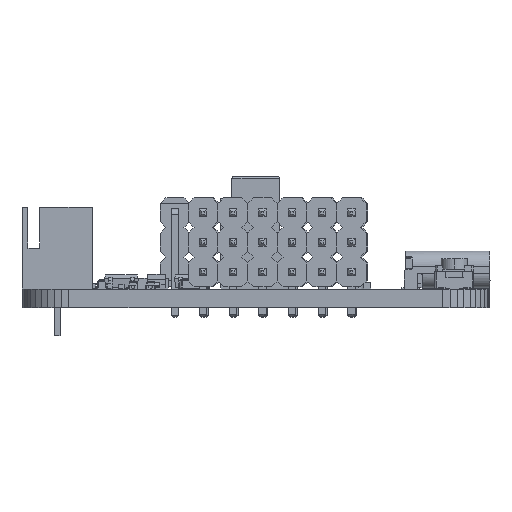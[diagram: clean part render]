
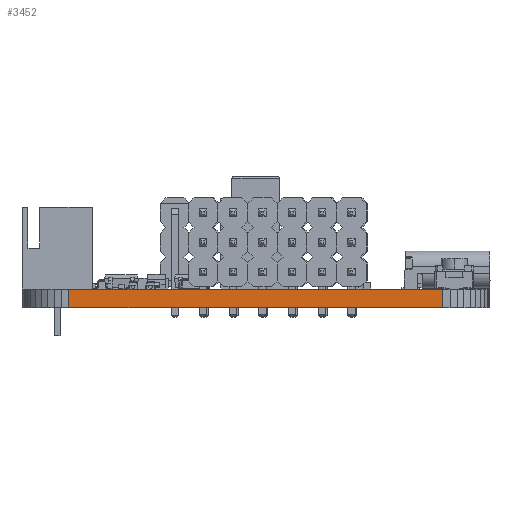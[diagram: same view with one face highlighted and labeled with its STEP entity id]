
A CAD part, left-side view. The second image highlights one B-rep face of the part: STEP entity #3452.
In plain terms, the highlighted planar face has unit normal (-1, 0, 0).
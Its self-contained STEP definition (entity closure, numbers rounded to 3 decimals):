
#243 = PLANE('',#244);
#244 = AXIS2_PLACEMENT_3D('',#245,#246,#247);
#245 = CARTESIAN_POINT('',(-20.,-16.,0.));
#246 = DIRECTION('',(0.998,0.059,0.));
#247 = DIRECTION('',(0.059,-0.998,0.));
#271 = PLANE('',#272);
#272 = AXIS2_PLACEMENT_3D('',#273,#274,#275);
#273 = CARTESIAN_POINT('',(-19.963,-16.628,1.615));
#274 = DIRECTION('',(0.,0.,-1.));
#275 = DIRECTION('',(-1.,0.,0.));
#325 = PLANE('',#326);
#326 = AXIS2_PLACEMENT_3D('',#327,#328,#329);
#327 = CARTESIAN_POINT('',(-19.963,-16.628,0.));
#328 = DIRECTION('',(0.,0.,-1.));
#329 = DIRECTION('',(-1.,0.,0.));
#3344 = PLANE('',#3345);
#3345 = AXIS2_PLACEMENT_3D('',#3346,#3347,#3348);
#3346 = CARTESIAN_POINT('',(-19.963,16.628,0.));
#3347 = DIRECTION('',(0.997,-0.078,0.));
#3348 = DIRECTION('',(-0.078,-0.997,0.));
#3382 = VERTEX_POINT('',#3383);
#3383 = CARTESIAN_POINT('',(-20.012,16.,1.615));
#3404 = EDGE_CURVE('',#3405,#3382,#3407,.T.);
#3405 = VERTEX_POINT('',#3406);
#3406 = CARTESIAN_POINT('',(-20.012,16.,0.));
#3407 = SURFACE_CURVE('',#3408,(#3412,#3419),.PCURVE_S1.);
#3408 = LINE('',#3409,#3410);
#3409 = CARTESIAN_POINT('',(-20.012,16.,0.));
#3410 = VECTOR('',#3411,1.);
#3411 = DIRECTION('',(0.,0.,1.));
#3412 = PCURVE('',#3344,#3413);
#3413 = DEFINITIONAL_REPRESENTATION('',(#3414),#3418);
#3414 = LINE('',#3415,#3416);
#3415 = CARTESIAN_POINT('',(0.63,0.));
#3416 = VECTOR('',#3417,1.);
#3417 = DIRECTION('',(0.,-1.));
#3418 = ( GEOMETRIC_REPRESENTATION_CONTEXT(2) 
PARAMETRIC_REPRESENTATION_CONTEXT() REPRESENTATION_CONTEXT('2D SPACE',''
  ) );
#3419 = PCURVE('',#3420,#3425);
#3420 = PLANE('',#3421);
#3421 = AXIS2_PLACEMENT_3D('',#3422,#3423,#3424);
#3422 = CARTESIAN_POINT('',(-20.012,16.,0.));
#3423 = DIRECTION('',(1.,0.,0.));
#3424 = DIRECTION('',(0.,-1.,0.));
#3425 = DEFINITIONAL_REPRESENTATION('',(#3426),#3430);
#3426 = LINE('',#3427,#3428);
#3427 = CARTESIAN_POINT('',(0.,0.));
#3428 = VECTOR('',#3429,1.);
#3429 = DIRECTION('',(0.,-1.));
#3430 = ( GEOMETRIC_REPRESENTATION_CONTEXT(2) 
PARAMETRIC_REPRESENTATION_CONTEXT() REPRESENTATION_CONTEXT('2D SPACE',''
  ) );
#3452 = ADVANCED_FACE('',(#3453),#3420,.F.);
#3453 = FACE_BOUND('',#3454,.F.);
#3454 = EDGE_LOOP('',(#3455,#3456,#3479,#3502));
#3455 = ORIENTED_EDGE('',*,*,#3404,.T.);
#3456 = ORIENTED_EDGE('',*,*,#3457,.T.);
#3457 = EDGE_CURVE('',#3382,#3458,#3460,.T.);
#3458 = VERTEX_POINT('',#3459);
#3459 = CARTESIAN_POINT('',(-20.,-16.,1.615));
#3460 = SURFACE_CURVE('',#3461,(#3465,#3472),.PCURVE_S1.);
#3461 = LINE('',#3462,#3463);
#3462 = CARTESIAN_POINT('',(-20.012,16.,1.615));
#3463 = VECTOR('',#3464,1.);
#3464 = DIRECTION('',(0.,-1.,0.));
#3465 = PCURVE('',#3420,#3466);
#3466 = DEFINITIONAL_REPRESENTATION('',(#3467),#3471);
#3467 = LINE('',#3468,#3469);
#3468 = CARTESIAN_POINT('',(0.,-1.615));
#3469 = VECTOR('',#3470,1.);
#3470 = DIRECTION('',(1.,0.));
#3471 = ( GEOMETRIC_REPRESENTATION_CONTEXT(2) 
PARAMETRIC_REPRESENTATION_CONTEXT() REPRESENTATION_CONTEXT('2D SPACE',''
  ) );
#3472 = PCURVE('',#271,#3473);
#3473 = DEFINITIONAL_REPRESENTATION('',(#3474),#3478);
#3474 = LINE('',#3475,#3476);
#3475 = CARTESIAN_POINT('',(0.049,32.628));
#3476 = VECTOR('',#3477,1.);
#3477 = DIRECTION('',(0.,-1.));
#3478 = ( GEOMETRIC_REPRESENTATION_CONTEXT(2) 
PARAMETRIC_REPRESENTATION_CONTEXT() REPRESENTATION_CONTEXT('2D SPACE',''
  ) );
#3479 = ORIENTED_EDGE('',*,*,#3480,.F.);
#3480 = EDGE_CURVE('',#3481,#3458,#3483,.T.);
#3481 = VERTEX_POINT('',#3482);
#3482 = CARTESIAN_POINT('',(-20.,-16.,0.));
#3483 = SURFACE_CURVE('',#3484,(#3488,#3495),.PCURVE_S1.);
#3484 = LINE('',#3485,#3486);
#3485 = CARTESIAN_POINT('',(-20.,-16.,0.));
#3486 = VECTOR('',#3487,1.);
#3487 = DIRECTION('',(0.,0.,1.));
#3488 = PCURVE('',#3420,#3489);
#3489 = DEFINITIONAL_REPRESENTATION('',(#3490),#3494);
#3490 = LINE('',#3491,#3492);
#3491 = CARTESIAN_POINT('',(32.,0.));
#3492 = VECTOR('',#3493,1.);
#3493 = DIRECTION('',(0.,-1.));
#3494 = ( GEOMETRIC_REPRESENTATION_CONTEXT(2) 
PARAMETRIC_REPRESENTATION_CONTEXT() REPRESENTATION_CONTEXT('2D SPACE',''
  ) );
#3495 = PCURVE('',#243,#3496);
#3496 = DEFINITIONAL_REPRESENTATION('',(#3497),#3501);
#3497 = LINE('',#3498,#3499);
#3498 = CARTESIAN_POINT('',(0.,0.));
#3499 = VECTOR('',#3500,1.);
#3500 = DIRECTION('',(0.,-1.));
#3501 = ( GEOMETRIC_REPRESENTATION_CONTEXT(2) 
PARAMETRIC_REPRESENTATION_CONTEXT() REPRESENTATION_CONTEXT('2D SPACE',''
  ) );
#3502 = ORIENTED_EDGE('',*,*,#3503,.F.);
#3503 = EDGE_CURVE('',#3405,#3481,#3504,.T.);
#3504 = SURFACE_CURVE('',#3505,(#3509,#3516),.PCURVE_S1.);
#3505 = LINE('',#3506,#3507);
#3506 = CARTESIAN_POINT('',(-20.012,16.,0.));
#3507 = VECTOR('',#3508,1.);
#3508 = DIRECTION('',(0.,-1.,0.));
#3509 = PCURVE('',#3420,#3510);
#3510 = DEFINITIONAL_REPRESENTATION('',(#3511),#3515);
#3511 = LINE('',#3512,#3513);
#3512 = CARTESIAN_POINT('',(0.,0.));
#3513 = VECTOR('',#3514,1.);
#3514 = DIRECTION('',(1.,0.));
#3515 = ( GEOMETRIC_REPRESENTATION_CONTEXT(2) 
PARAMETRIC_REPRESENTATION_CONTEXT() REPRESENTATION_CONTEXT('2D SPACE',''
  ) );
#3516 = PCURVE('',#325,#3517);
#3517 = DEFINITIONAL_REPRESENTATION('',(#3518),#3522);
#3518 = LINE('',#3519,#3520);
#3519 = CARTESIAN_POINT('',(0.049,32.628));
#3520 = VECTOR('',#3521,1.);
#3521 = DIRECTION('',(0.,-1.));
#3522 = ( GEOMETRIC_REPRESENTATION_CONTEXT(2) 
PARAMETRIC_REPRESENTATION_CONTEXT() REPRESENTATION_CONTEXT('2D SPACE',''
  ) );
